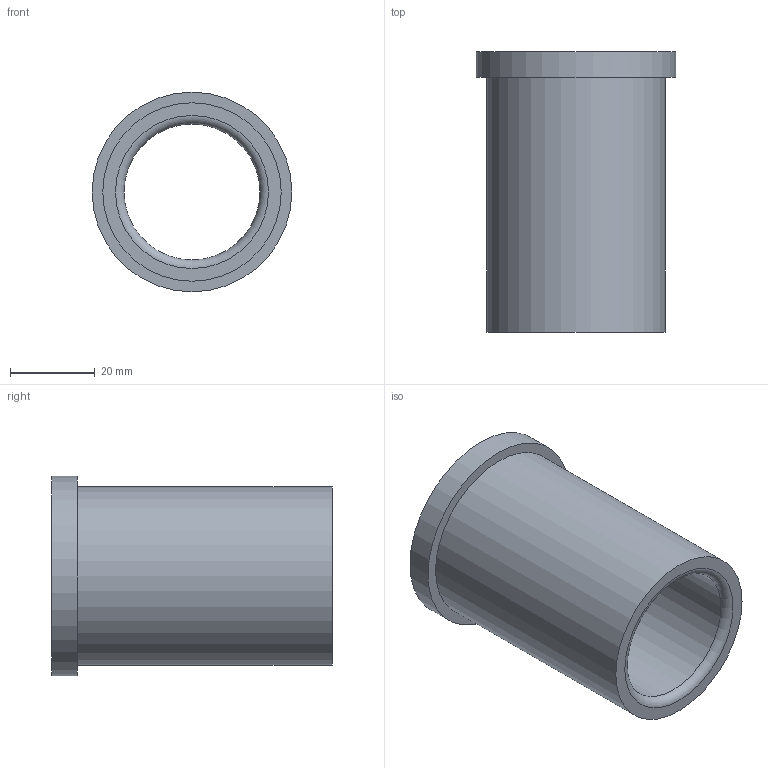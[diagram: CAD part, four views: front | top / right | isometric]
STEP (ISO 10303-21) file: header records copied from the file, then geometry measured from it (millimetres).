
FILE_DESCRIPTION(/* description */ ('STEP AP214'),/* implementation_level */ '2;1');
FILE_NAME(/* name */ '03_12_17858',/* time_stamp */ '2023-06-15T11:35:41+02:00',/* author */ ('License CC BY-ND 4.0'),/* organization */ ('CADENAS'),/* preprocessor_version */ 'ST-DEVELOPER v19.3',/* originating_system */ 'PARTsolutions',/* authorisation */ ' ');
FILE_SCHEMA (('AUTOMOTIVE_DESIGN {1 0 10303 214 3 1 1}'));
Length unit declared in the file: millimetre
Products named in the file (1): VA_Bushing_17858
Bounding box: 47 x 66 x 47 mm (x, y, z)
Volume: 39875 mm3; surface area: 17153.4 mm2
Topology: 1 solids, 1 shells, 10 faces, 16 edges, 10 vertices
Faces by surface type: cylinder 4, plane 4, torus 2
Full cylindrical faces by diameter (mm): 32 x1, 32.6 x1, 42 x1, 47 x1
Entity records: 302 total; most frequent: DIRECTION 42, CARTESIAN_POINT 31, AXIS2_PLACEMENT_3D 21, ORIENTED_EDGE 20, EDGE_LOOP 20, FACE_BOUND 20, EDGE_CURVE 10, VERTEX_POINT 10
